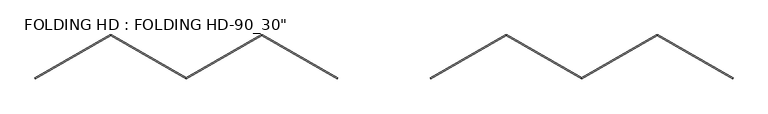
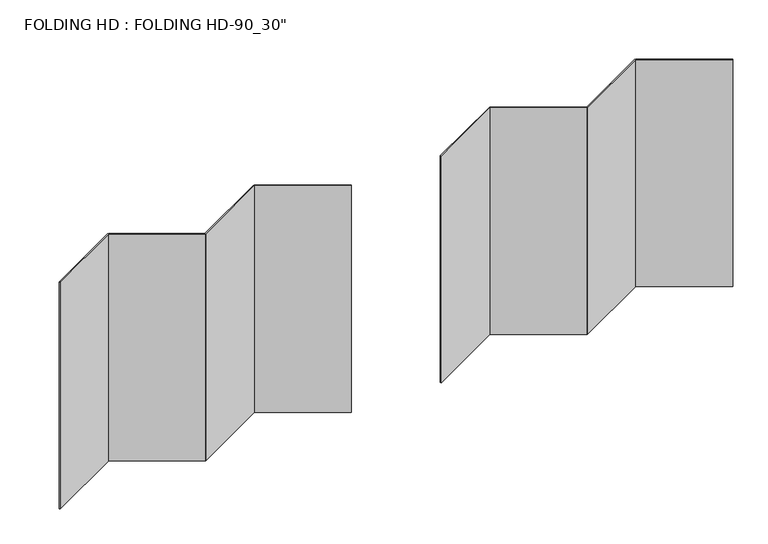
"""IFC4 building model written with IfcOpenShell, lengths in millimetres: plate geometry."""

from ifc_helpers import new_model, si_unit, origin, origin_with_axes, place, context, project, spatial, polyline, outline, extrude, source, transform, mapped, element, save


def plate_a966da8b(model_context):
    return source(origin(), model_context, "Body", "SweptSolid", [
        extrude(outline(polyline([(2820.5771366, 450.0), (2041.1542732, 0.0), (2036.1542732, 8.660254), (2815.5771366, 458.6602541), (2820.5771366, 450.0)])), origin_with_axes(), (0.0, 0.0, 1.0), 2570.0),
        extrude(outline(polyline([(2820.5771366, 450.0), (2825.5771366, 458.660254), (3605.0, 8.660254), (3600.0, 0.0), (2820.5771366, 450.0)])), origin_with_axes(), (0.0, 0.0, 1.0), 2570.0),
        extrude(outline(polyline([(1261.7314098, 450.0), (1266.7314098, 458.660254), (2046.1542732, 8.660254), (2041.1542732, 0.0), (1261.7314098, 450.0)])), origin_with_axes(), (0.0, 0.0, 1.0), 2570.0),
        extrude(outline(polyline([(1261.7314098, 450.0), (482.3085464, 0.0), (477.3085464, 8.660254), (1256.7314098, 458.660254), (1261.7314098, 450.0)])), origin_with_axes(), (0.0, 0.0, 1.0), 2570.0),
        extrude(outline(polyline([(-1261.7314098, 450.0), (-2041.1542732, 0.0), (-2046.1542732, 8.660254), (-1266.7314098, 458.660254), (-1261.7314098, 450.0)])), origin_with_axes(), (0.0, 0.0, 1.0), 2570.0),
        extrude(outline(polyline([(-1261.7314098, 450.0), (-1256.7314098, 458.660254), (-477.3085464, 8.660254), (-482.3085464, 0.0), (-1261.7314098, 450.0)])), origin_with_axes(), (0.0, 0.0, 1.0), 2570.0),
        extrude(outline(polyline([(-2820.5771366, 450.0), (-2815.5771366, 458.660254), (-2036.1542732, 8.660254), (-2041.1542732, 0.0), (-2820.5771366, 450.0)])), origin_with_axes(), (0.0, 0.0, 1.0), 2570.0),
        extrude(outline(polyline([(-2820.5771366, 450.0), (-3600.0, 0.0), (-3605.0, 8.660254), (-2825.5771366, 458.660254), (-2820.5771366, 450.0)])), origin_with_axes(), (0.0, 0.0, 1.0), 2570.0),
    ])


if __name__ == "__main__":
    model = new_model("IFC4")
    model_context = context("Model", 3, world=origin())
    ifc_project = project(units=[si_unit("LENGTHUNIT", "METRE", prefix="MILLI")], contexts=[model_context])
    site = spatial("IfcSite", under=ifc_project)
    building = spatial("IfcBuilding", under=site)
    placement = place(None, origin())
    plate_shape = plate_a966da8b(model_context)
    element("IfcPlate", 1, ObjectType="FOLDING HD : FOLDING HD-90_30\"", at=placement, inside=building, context=model_context, shape_type="MappedRepresentation", body=[
        mapped(plate_shape, transform((0.0, 0.0, 0.0), x_axis=(1.0, 0.0, 0.0), y_axis=(0.0, 1.0, 0.0), z_axis=(0.0, 0.0, 1.0))),
    ])
    save(model, "model.ifc")
